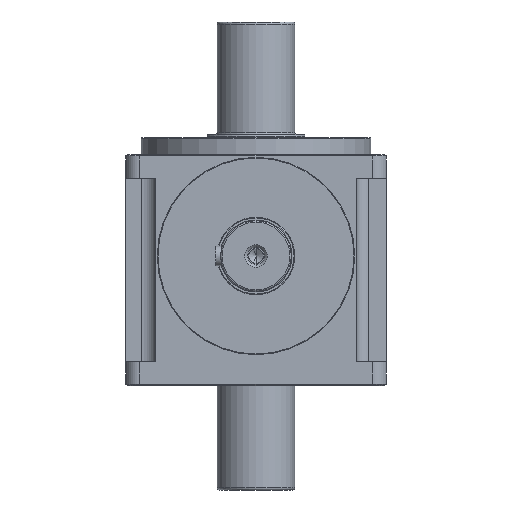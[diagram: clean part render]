
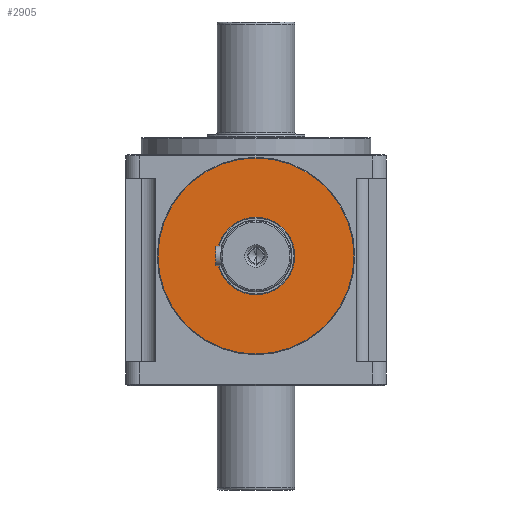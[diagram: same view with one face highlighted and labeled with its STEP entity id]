
A CAD part, front view. The second image highlights one B-rep face of the part: STEP entity #2905.
In plain terms, the highlighted planar face has unit normal (0, -1, 0).
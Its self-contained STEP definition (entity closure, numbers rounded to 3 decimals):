
#75 = AXIS2_PLACEMENT_3D ( 'NONE', #4789, #9709, #7224 ) ;
#325 = EDGE_CURVE ( 'NONE', #3261, #8671, #4797, .T. ) ;
#883 = AXIS2_PLACEMENT_3D ( 'NONE', #6333, #3145, #5585 ) ;
#1713 = CIRCLE ( 'NONE', #7975, 69.5 ) ;
#1934 = AXIS2_PLACEMENT_3D ( 'NONE', #7750, #2173, #10191 ) ;
#2125 = AXIS2_PLACEMENT_3D ( 'NONE', #9952, #2740, #8307 ) ;
#2173 = DIRECTION ( 'NONE',  ( 0., -1., 0. ) ) ;
#2639 = CIRCLE ( 'NONE', #2125, 69.5 ) ;
#2740 = DIRECTION ( 'NONE',  ( 0., -1., 0. ) ) ;
#2836 = EDGE_CURVE ( 'NONE', #8671, #3261, #9726, .T. ) ;
#2905 = ADVANCED_FACE ( 'NONE', ( #6221, #4632 ), #7861, .T. ) ;
#3145 = DIRECTION ( 'NONE',  ( 0., -1., 0. ) ) ;
#3261 = VERTEX_POINT ( 'NONE', #10485 ) ;
#4632 = FACE_OUTER_BOUND ( 'NONE', #7091, .T. ) ;
#4789 = CARTESIAN_POINT ( 'NONE',  ( 0., -163., 0. ) ) ;
#4797 = CIRCLE ( 'NONE', #883, 27.5 ) ;
#5495 = DIRECTION ( 'NONE',  ( 0., -1., 0. ) ) ;
#5585 = DIRECTION ( 'NONE',  ( 0., 0., -1. ) ) ;
#5704 = CARTESIAN_POINT ( 'NONE',  ( 0., -163., -69.5 ) ) ;
#6055 = EDGE_CURVE ( 'NONE', #10220, #8292, #2639, .T. ) ;
#6148 = ORIENTED_EDGE ( 'NONE', *, *, #2836, .F. ) ;
#6221 = FACE_BOUND ( 'NONE', #8035, .T. ) ;
#6333 = CARTESIAN_POINT ( 'NONE',  ( 0., -163., 0. ) ) ;
#6567 = ORIENTED_EDGE ( 'NONE', *, *, #8706, .T. ) ;
#7091 = EDGE_LOOP ( 'NONE', ( #6567, #9982 ) ) ;
#7129 = CARTESIAN_POINT ( 'NONE',  ( 0., -163., 0. ) ) ;
#7224 = DIRECTION ( 'NONE',  ( 0., 0., -1. ) ) ;
#7750 = CARTESIAN_POINT ( 'NONE',  ( 0., -163., 0. ) ) ;
#7861 = PLANE ( 'NONE',  #75 ) ;
#7975 = AXIS2_PLACEMENT_3D ( 'NONE', #7129, #5495, #10360 ) ;
#8035 = EDGE_LOOP ( 'NONE', ( #6148, #8147 ) ) ;
#8147 = ORIENTED_EDGE ( 'NONE', *, *, #325, .F. ) ;
#8232 = CARTESIAN_POINT ( 'NONE',  ( 0., -163., 69.5 ) ) ;
#8292 = VERTEX_POINT ( 'NONE', #8232 ) ;
#8307 = DIRECTION ( 'NONE',  ( 0., 0., -1. ) ) ;
#8671 = VERTEX_POINT ( 'NONE', #9402 ) ;
#8706 = EDGE_CURVE ( 'NONE', #8292, #10220, #1713, .T. ) ;
#9402 = CARTESIAN_POINT ( 'NONE',  ( 0., -163., 27.5 ) ) ;
#9709 = DIRECTION ( 'NONE',  ( 0., -1., 0. ) ) ;
#9726 = CIRCLE ( 'NONE', #1934, 27.5 ) ;
#9952 = CARTESIAN_POINT ( 'NONE',  ( 0., -163., 0. ) ) ;
#9982 = ORIENTED_EDGE ( 'NONE', *, *, #6055, .T. ) ;
#10191 = DIRECTION ( 'NONE',  ( 0., 0., -1. ) ) ;
#10220 = VERTEX_POINT ( 'NONE', #5704 ) ;
#10360 = DIRECTION ( 'NONE',  ( 0., 0., -1. ) ) ;
#10485 = CARTESIAN_POINT ( 'NONE',  ( 0., -163., -27.5 ) ) ;
